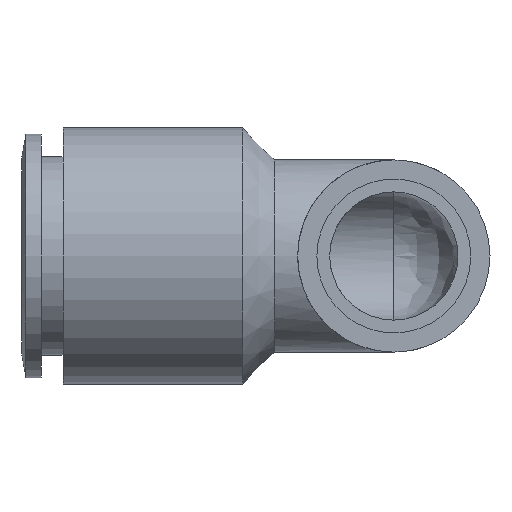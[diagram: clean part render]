
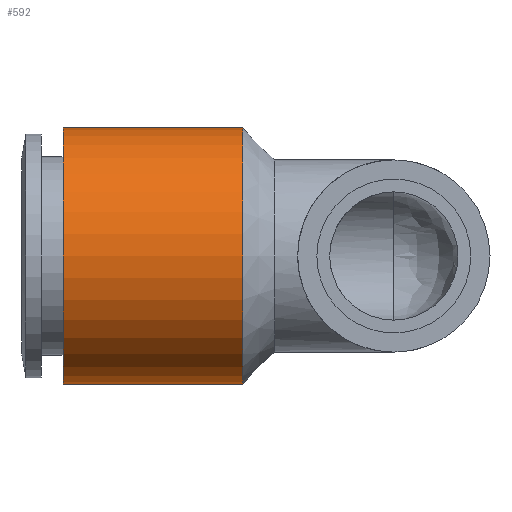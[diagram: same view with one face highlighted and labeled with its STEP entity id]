
A CAD part, left-side view. The second image highlights one B-rep face of the part: STEP entity #592.
In plain terms, the highlighted cylindrical face has radius 10 mm (diameter 20 mm), a full revolution.
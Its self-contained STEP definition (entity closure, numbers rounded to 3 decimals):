
#558=CARTESIAN_POINT('',(-10.0,11.8,0.0));
#559=VERTEX_POINT('',#558);
#560=CARTESIAN_POINT('',(0.0,11.8,0.0));
#561=DIRECTION('',(0.0,1.0,0.0));
#562=DIRECTION('',(-1.0,0.0,0.0));
#563=AXIS2_PLACEMENT_3D('',#560,#561,#562);
#564=CIRCLE('',#563,10.0);
#565=EDGE_CURVE('',#559,#559,#564,.T.);
#573=CARTESIAN_POINT('',(0.0,18.8,0.0));
#574=DIRECTION('',(0.0,1.0,0.0));
#575=DIRECTION('',(-1.0,0.0,0.0));
#576=AXIS2_PLACEMENT_3D('',#573,#574,#575);
#577=CYLINDRICAL_SURFACE('',#576,10.0);
#578=CARTESIAN_POINT('',(-10.0,25.8,0.0));
#579=VERTEX_POINT('',#578);
#580=CARTESIAN_POINT('',(0.0,25.8,0.0));
#581=DIRECTION('',(0.0,1.0,0.0));
#582=DIRECTION('',(-1.0,0.0,0.0));
#583=AXIS2_PLACEMENT_3D('',#580,#581,#582);
#584=CIRCLE('',#583,10.0);
#585=EDGE_CURVE('',#579,#579,#584,.T.);
#586=ORIENTED_EDGE('',*,*,#585,.F.);
#587=EDGE_LOOP('',(#586));
#588=FACE_OUTER_BOUND('',#587,.T.);
#589=ORIENTED_EDGE('',*,*,#565,.T.);
#590=EDGE_LOOP('',(#589));
#591=FACE_BOUND('',#590,.T.);
#592=ADVANCED_FACE('',(#588,#591),#577,.T.);
